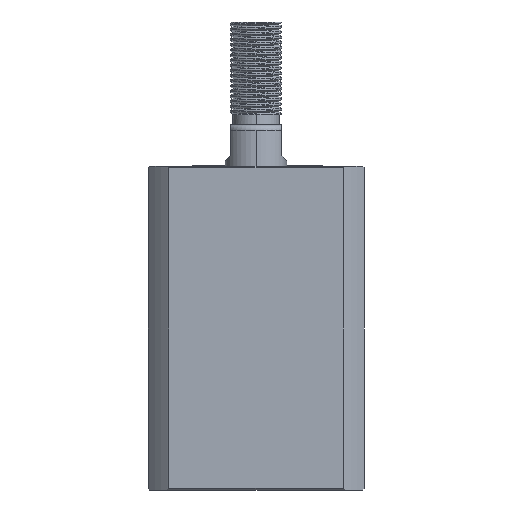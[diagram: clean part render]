
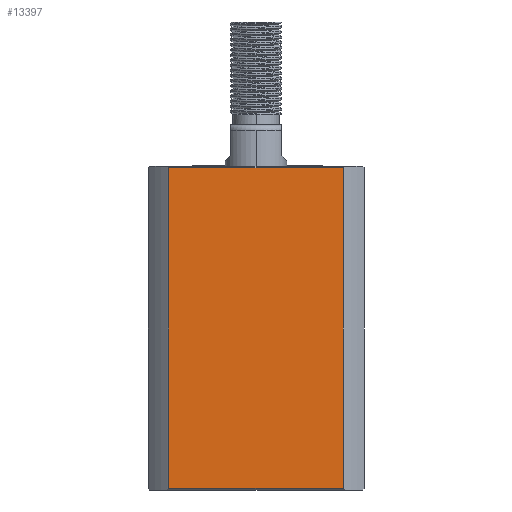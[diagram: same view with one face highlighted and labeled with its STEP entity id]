
A CAD part, left-side view. The second image highlights one B-rep face of the part: STEP entity #13397.
In plain terms, the highlighted planar face has unit normal (-1, 0, 0).
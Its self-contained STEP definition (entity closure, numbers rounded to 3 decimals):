
#40 = VECTOR ( 'NONE', #356, 1000. ) ;
#356 = DIRECTION ( 'NONE',  ( 0., 0., 1. ) ) ;
#410 = LINE ( 'NONE', #9419, #40 ) ;
#1237 = VECTOR ( 'NONE', #15011, 1000. ) ;
#1715 = DIRECTION ( 'NONE',  ( 0., 1., 0. ) ) ;
#2190 = VECTOR ( 'NONE', #9788, 1000. ) ;
#2783 = CARTESIAN_POINT ( 'NONE',  ( -21., -16.971, -237. ) ) ;
#4267 = VERTEX_POINT ( 'NONE', #10996 ) ;
#4548 = CARTESIAN_POINT ( 'NONE',  ( -21., 21., 62.7 ) ) ;
#5850 = LINE ( 'NONE', #6976, #14792 ) ;
#6272 = VERTEX_POINT ( 'NONE', #13535 ) ;
#6976 = CARTESIAN_POINT ( 'NONE',  ( -21., 21., 0.3 ) ) ;
#7477 = AXIS2_PLACEMENT_3D ( 'NONE', #13321, #8678, #1715 ) ;
#7639 = EDGE_CURVE ( 'NONE', #6272, #4267, #11477, .T. ) ;
#8188 = ORIENTED_EDGE ( 'NONE', *, *, #7639, .F. ) ;
#8204 = EDGE_CURVE ( 'NONE', #8675, #14671, #410, .T. ) ;
#8629 = PLANE ( 'NONE',  #7477 ) ;
#8675 = VERTEX_POINT ( 'NONE', #12513 ) ;
#8678 = DIRECTION ( 'NONE',  ( 1., 0., 0. ) ) ;
#9190 = DIRECTION ( 'NONE',  ( 0., -1., 0. ) ) ;
#9408 = LINE ( 'NONE', #4548, #1237 ) ;
#9419 = CARTESIAN_POINT ( 'NONE',  ( -21., 16.971, -237. ) ) ;
#9788 = DIRECTION ( 'NONE',  ( 0., 0., -1. ) ) ;
#9858 = EDGE_CURVE ( 'NONE', #6272, #14671, #9408, .T. ) ;
#10575 = EDGE_LOOP ( 'NONE', ( #13105, #12003, #8188, #12609 ) ) ;
#10996 = CARTESIAN_POINT ( 'NONE',  ( -21., -16.971, 0.3 ) ) ;
#11477 = LINE ( 'NONE', #2783, #2190 ) ;
#12003 = ORIENTED_EDGE ( 'NONE', *, *, #13723, .T. ) ;
#12513 = CARTESIAN_POINT ( 'NONE',  ( -21., 16.971, 0.3 ) ) ;
#12609 = ORIENTED_EDGE ( 'NONE', *, *, #9858, .T. ) ;
#12712 = CARTESIAN_POINT ( 'NONE',  ( -21., 16.971, 62.7 ) ) ;
#13105 = ORIENTED_EDGE ( 'NONE', *, *, #8204, .F. ) ;
#13321 = CARTESIAN_POINT ( 'NONE',  ( -21., 21., 63. ) ) ;
#13397 = ADVANCED_FACE ( 'NONE', ( #13507 ), #8629, .F. ) ;
#13507 = FACE_OUTER_BOUND ( 'NONE', #10575, .T. ) ;
#13535 = CARTESIAN_POINT ( 'NONE',  ( -21., -16.971, 62.7 ) ) ;
#13723 = EDGE_CURVE ( 'NONE', #8675, #4267, #5850, .T. ) ;
#14671 = VERTEX_POINT ( 'NONE', #12712 ) ;
#14792 = VECTOR ( 'NONE', #9190, 1000. ) ;
#15011 = DIRECTION ( 'NONE',  ( 0., 1., 0. ) ) ;
